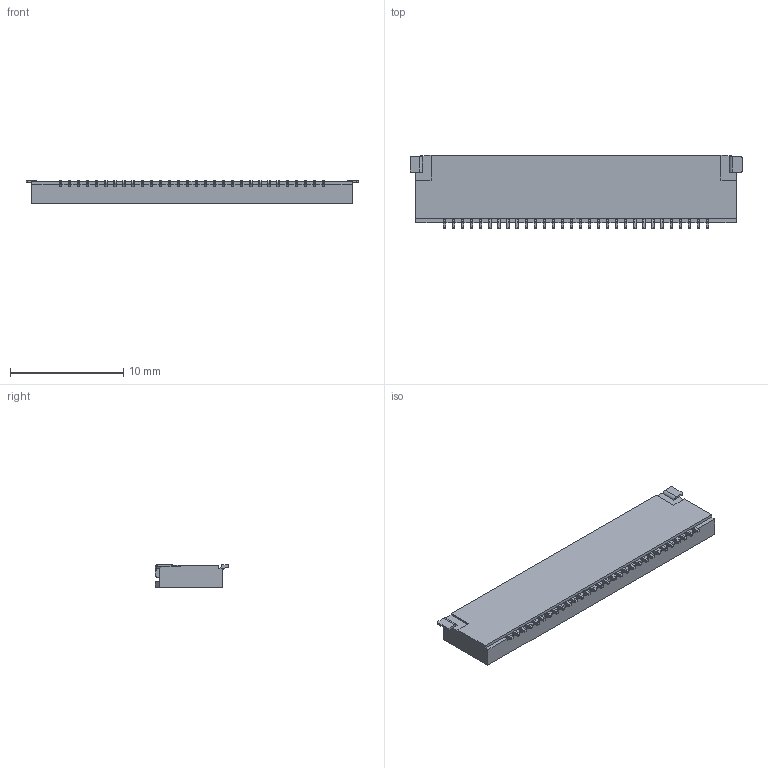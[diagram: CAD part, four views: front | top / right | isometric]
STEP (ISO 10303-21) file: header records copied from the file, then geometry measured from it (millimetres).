
FILE_DESCRIPTION((''),'2;1');
FILE_NAME('S-51510-010XX-XXX','2014-10-23T',('d21450'),(''),'PRO/ENGINEER BY PARAMETRIC TECHNOLOGY CORPORATION, 2009360','PRO/ENGINEER BY PARAMETRIC TECHNOLOGY CORPORATION, 2009360','');
FILE_SCHEMA(('CONFIG_CONTROL_DESIGN'));
Length unit declared in the file: millimetre
Products named in the file (1): S-51510-010XX-XXX
Bounding box: 29.31 x 6.5 x 2 mm (x, y, z)
Volume: 255 mm3; surface area: 907.7 mm2
Topology: 1 solids, 1 shells, 1057 faces, 3281 edges, 2252 vertices
Faces by surface type: plane 827, cylinder 230
Entity records: 36238 total; most frequent: CARTESIAN_POINT 6502, ORIENTED_EDGE 6306, DIRECTION 5911, EDGE_CURVE 3153, VECTOR 2757, LINE 2757, VERTEX_POINT 2124, AXIS2_PLACEMENT_3D 1577
